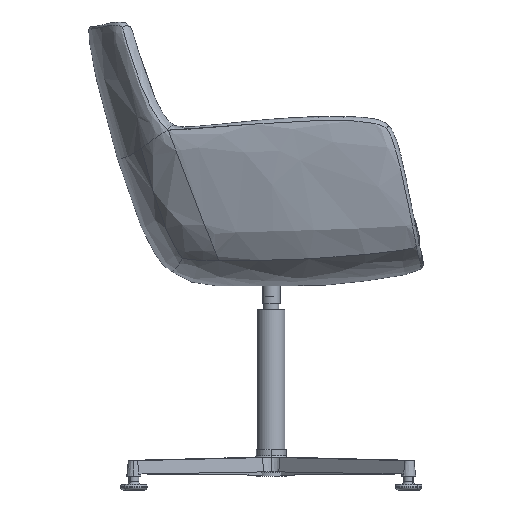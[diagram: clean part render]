
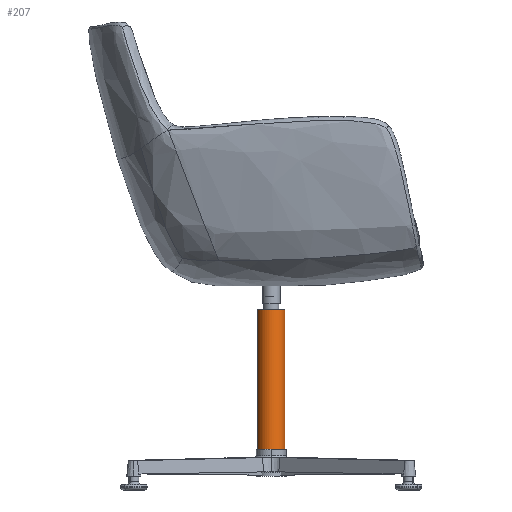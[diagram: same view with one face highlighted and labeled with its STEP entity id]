
A CAD part, left-side view. The second image highlights one B-rep face of the part: STEP entity #207.
In plain terms, the highlighted cylindrical face has radius 25 mm (diameter 50 mm), a partial arc.
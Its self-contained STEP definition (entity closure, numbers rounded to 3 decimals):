
#207=ADVANCED_FACE('',(#403),#2508,.T.);
#403=FACE_OUTER_BOUND('',#599,.T.);
#599=EDGE_LOOP('',(#1317,#1318,#1319,#1320));
#1317=ORIENTED_EDGE('',*,*,#1841,.T.);
#1318=ORIENTED_EDGE('',*,*,#1840,.F.);
#1319=ORIENTED_EDGE('',*,*,#1839,.F.);
#1320=ORIENTED_EDGE('',*,*,#1838,.T.);
#1838=EDGE_CURVE('',#2340,#2341,#2046,.T.);
#1839=EDGE_CURVE('',#2340,#2339,#2834,.T.);
#1840=EDGE_CURVE('',#2339,#2342,#2047,.T.);
#1841=EDGE_CURVE('',#2341,#2342,#2048,.T.);
#2046=(
BOUNDED_CURVE()
B_SPLINE_CURVE(2,(#6148,#6149,#6150,#6151,#6152),.UNSPECIFIED.,.F.,.F.)
B_SPLINE_CURVE_WITH_KNOTS((3,2,3),(0.,39.27,78.54),
 .UNSPECIFIED.)
CURVE()
GEOMETRIC_REPRESENTATION_ITEM()
RATIONAL_B_SPLINE_CURVE((1.,0.707,1.,0.707,1.))
REPRESENTATION_ITEM('')
);
#2047=(
BOUNDED_CURVE()
B_SPLINE_CURVE(2,(#6155,#6156,#6157,#6158,#6159),.UNSPECIFIED.,.F.,.F.)
B_SPLINE_CURVE_WITH_KNOTS((3,2,3),(0.,39.27,78.54),
 .UNSPECIFIED.)
CURVE()
GEOMETRIC_REPRESENTATION_ITEM()
RATIONAL_B_SPLINE_CURVE((1.,0.707,1.,0.707,1.))
REPRESENTATION_ITEM('')
);
#2048=(
BOUNDED_CURVE()
B_SPLINE_CURVE(1,(#6160,#6161),.UNSPECIFIED.,.F.,.F.)
B_SPLINE_CURVE_WITH_KNOTS((2,2),(0.,290.),.UNSPECIFIED.)
CURVE()
GEOMETRIC_REPRESENTATION_ITEM()
RATIONAL_B_SPLINE_CURVE((1.,1.))
REPRESENTATION_ITEM('')
);
#2339=VERTEX_POINT('',#6144);
#2340=VERTEX_POINT('',#6145);
#2341=VERTEX_POINT('',#6146);
#2342=VERTEX_POINT('',#6147);
#2508=CYLINDRICAL_SURFACE('',#2996,25.);
#2834=B_SPLINE_CURVE_WITH_KNOTS('',1,(#6153,#6154),.UNSPECIFIED.,.F.,.F.,
(2,2),(0.,290.),.UNSPECIFIED.);
#2996=AXIS2_PLACEMENT_3D('',#6142,#3073,$);
#3073=DIRECTION('',(0.,0.,1.));
#6142=CARTESIAN_POINT('',(0.,0.,179.5));
#6144=CARTESIAN_POINT('',(0.,25.,328.));
#6145=CARTESIAN_POINT('',(0.,25.,31.));
#6146=CARTESIAN_POINT('',(0.,-25.,31.));
#6147=CARTESIAN_POINT('',(0.,-25.,328.));
#6148=CARTESIAN_POINT('',(0.,25.,31.));
#6149=CARTESIAN_POINT('',(-25.,25.,31.));
#6150=CARTESIAN_POINT('',(-25.,0.,31.));
#6151=CARTESIAN_POINT('',(-25.,-25.,31.));
#6152=CARTESIAN_POINT('',(0.,-25.,31.));
#6153=CARTESIAN_POINT('',(0.,25.,31.));
#6154=CARTESIAN_POINT('',(0.,25.,328.));
#6155=CARTESIAN_POINT('',(0.,25.,328.));
#6156=CARTESIAN_POINT('',(-25.,25.,328.));
#6157=CARTESIAN_POINT('',(-25.,0.,328.));
#6158=CARTESIAN_POINT('',(-25.,-25.,328.));
#6159=CARTESIAN_POINT('',(0.,-25.,328.));
#6160=CARTESIAN_POINT('',(0.,-25.,31.));
#6161=CARTESIAN_POINT('',(0.,-25.,328.));
